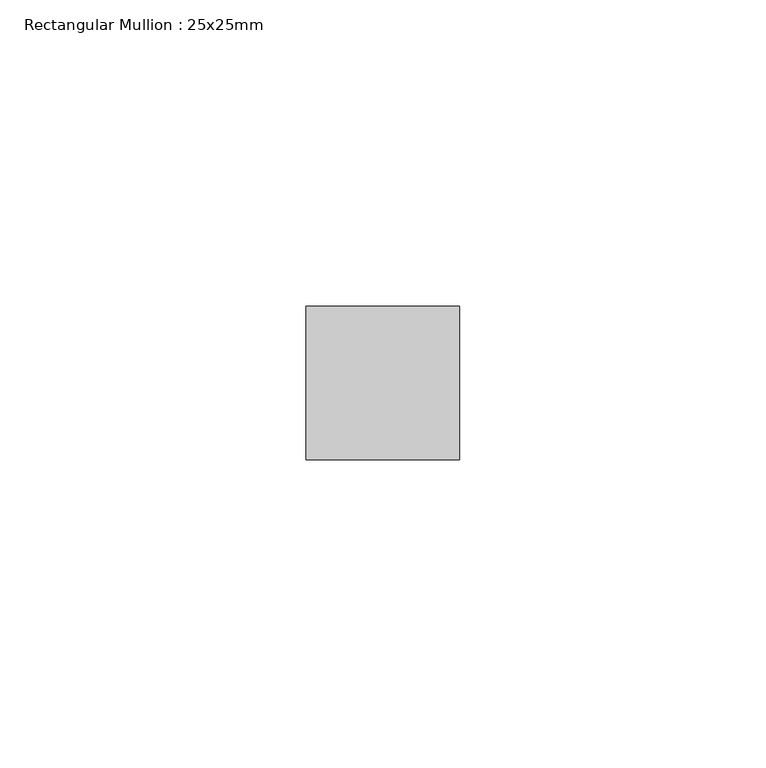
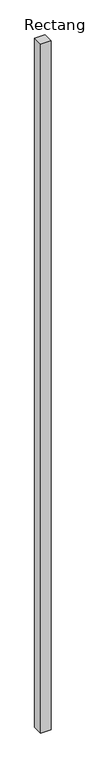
"""IFC4 building model written with IfcOpenShell, lengths in millimetres: member geometry, Rectangular Mullion : 25x25mm."""

from ifc_helpers import new_model, si_unit, frame, origin, place, context, project, spatial, polyline, outline, extrude, source, transform, mapped, element, save


def rectangular_mullion_25x25mm_fff97f92(model_context):
    return source(origin(), model_context, "Body", "SweptSolid", [
        extrude(outline(polyline([(0.0, 0.5), (0.0, -24.5), (-25.0, -24.5), (-25.0, 0.5), (0.0, 0.5)])), frame((0.0, 0.0, -1745.0349339), z_axis=(0.0, 0.0, 1.0), x_axis=(1.0, 0.0, 0.0)), (0.0, 0.0, 1.0), 1745.0349339),
    ])


if __name__ == "__main__":
    model = new_model("IFC4")
    model_context = context("Model", 3, world=origin())
    ifc_project = project(units=[si_unit("LENGTHUNIT", "METRE", prefix="MILLI")], contexts=[model_context])
    site = spatial("IfcSite", under=ifc_project)
    building = spatial("IfcBuilding", under=site)
    placement = place(None, origin())
    rectangular_mullion_25x25mm_shape = rectangular_mullion_25x25mm_fff97f92(model_context)
    element("IfcMember", 1, ObjectType="Rectangular Mullion : 25x25mm", at=placement, inside=building, context=model_context, shape_type="MappedRepresentation", body=[
        mapped(rectangular_mullion_25x25mm_shape, transform((0.0, 0.0, 0.0), x_axis=(1.0, 0.0, 0.0), y_axis=(0.0, 1.0, 0.0), z_axis=(0.0, 0.0, 1.0))),
    ])
    save(model, "model.ifc")
